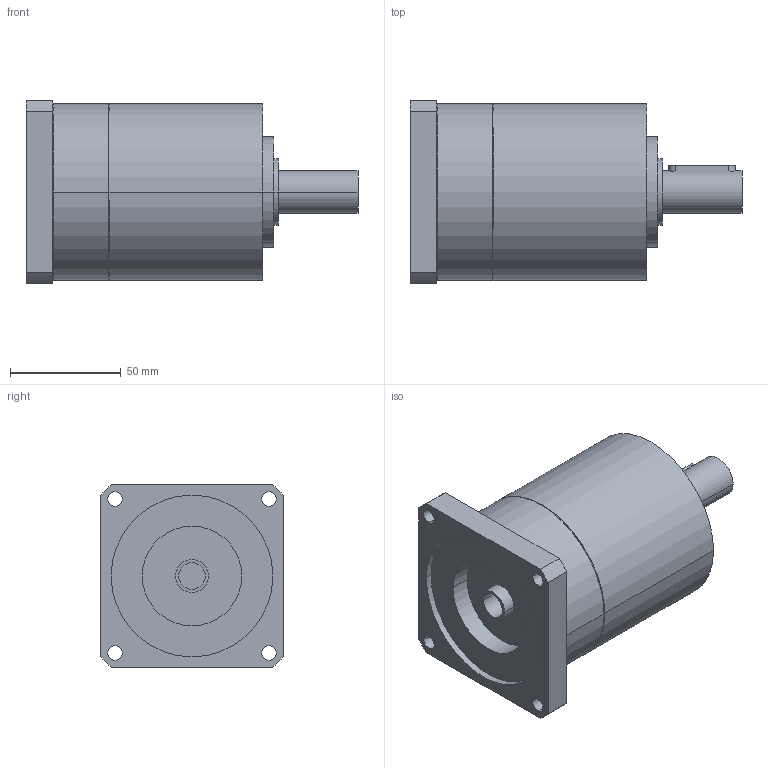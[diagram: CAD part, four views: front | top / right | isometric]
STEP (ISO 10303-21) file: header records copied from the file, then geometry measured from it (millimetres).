
FILE_DESCRIPTION(('CoCreate Modeling STEP Export'),'2;1');
FILE_NAME('GPR100_ig-3-4-5-6_19_B14_12.7_P05.stp','2014-08-26T10:06:47',(''),(''),'CoCreate Modeling STEP processor for AP214 (Solid Model)','CoCreate Modeling 16.00C 25-Feb-2009 (C) Parametric Technology GmbH','');
FILE_SCHEMA(('AUTOMOTIVE_DESIGN { 1 0 10303 214 1 1 1 1 }'));
Length unit declared in the file: millimetre
Products named in the file (2): GPR100_ig-3-4-5-6_19_B14_12.7_P05
Assembly tree (1 placements, depth 2):
  GPR100_ig-3-4-5-6_19_B14_12.7_P05
    GPR100_ig-3-4-5-6_19_B14_12.7_P05
Bounding box: 150 x 82.5 x 82.5 mm (x, y, z)
Volume: 548493.2 mm3; surface area: 50071.4 mm2
Topology: 1 solids, 1 shells, 70 faces, 185 edges, 129 vertices
Faces by surface type: cylinder 42, plane 22, cone 6
Entity records: 1924 total; most frequent: ORIENTED_EDGE 366, CARTESIAN_POINT 357, DIRECTION 262, EDGE_CURVE 183, VERTEX_POINT 129, AXIS2_PLACEMENT_3D 98, EDGE_LOOP 92, FACE_OUTER_BOUND 70
